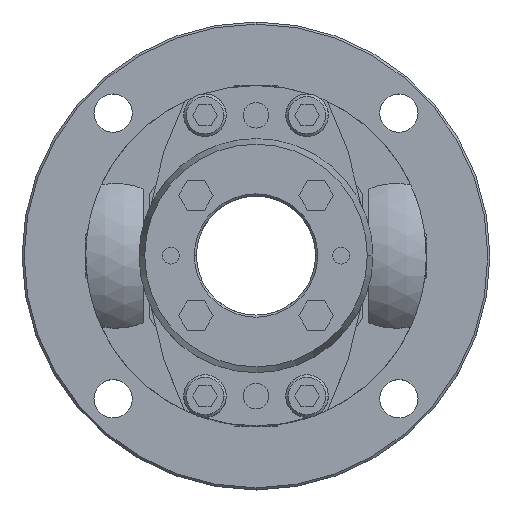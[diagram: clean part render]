
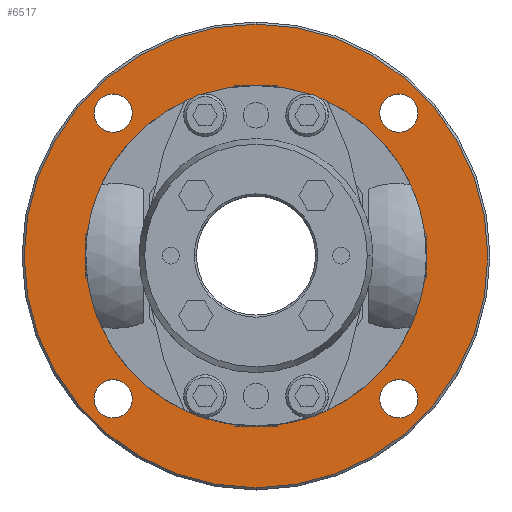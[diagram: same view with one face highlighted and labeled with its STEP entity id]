
A CAD part, top view. The second image highlights one B-rep face of the part: STEP entity #6517.
In plain terms, the highlighted planar face has unit normal (0, 0, 1).
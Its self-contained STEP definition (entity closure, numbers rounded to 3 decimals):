
#730=CARTESIAN_POINT('',(0.,-40.0,-16.0));
#731=VERTEX_POINT('',#730);
#847=CARTESIAN_POINT('',(0.,40.0,-16.0));
#848=VERTEX_POINT('',#847);
#855=CARTESIAN_POINT('',(0.0,0.0,-16.0));
#856=DIRECTION('',(0.0,0.0,-1.0));
#857=DIRECTION('',(0.0,1.0,0.0));
#858=AXIS2_PLACEMENT_3D('',#855,#856,#857);
#859=CIRCLE('',#858,40.0);
#860=EDGE_CURVE('',#731,#848,#859,.T.);
#1357=CARTESIAN_POINT('',(-33.588,38.088,-16.0));
#1358=VERTEX_POINT('',#1357);
#1367=CARTESIAN_POINT('',(-33.588,29.088,-16.0));
#1368=VERTEX_POINT('',#1367);
#1369=CARTESIAN_POINT('',(-33.588,33.588,-16.0));
#1370=DIRECTION('',(0.0,0.0,-1.0));
#1371=DIRECTION('',(0.0,1.0,0.0));
#1372=AXIS2_PLACEMENT_3D('',#1369,#1370,#1371);
#1373=CIRCLE('',#1372,4.5);
#1374=EDGE_CURVE('',#1368,#1358,#1373,.T.);
#1399=CARTESIAN_POINT('',(33.588,38.088,-16.0));
#1400=VERTEX_POINT('',#1399);
#1409=CARTESIAN_POINT('',(33.588,29.088,-16.0));
#1410=VERTEX_POINT('',#1409);
#1411=CARTESIAN_POINT('',(33.588,33.588,-16.0));
#1412=DIRECTION('',(0.0,0.0,-1.0));
#1413=DIRECTION('',(0.0,1.0,0.0));
#1414=AXIS2_PLACEMENT_3D('',#1411,#1412,#1413);
#1415=CIRCLE('',#1414,4.5);
#1416=EDGE_CURVE('',#1410,#1400,#1415,.T.);
#1441=CARTESIAN_POINT('',(33.588,-29.088,-16.0));
#1442=VERTEX_POINT('',#1441);
#1451=CARTESIAN_POINT('',(33.588,-38.088,-16.0));
#1452=VERTEX_POINT('',#1451);
#1453=CARTESIAN_POINT('',(33.588,-33.588,-16.0));
#1454=DIRECTION('',(0.0,0.0,-1.0));
#1455=DIRECTION('',(0.0,1.0,0.0));
#1456=AXIS2_PLACEMENT_3D('',#1453,#1454,#1455);
#1457=CIRCLE('',#1456,4.5);
#1458=EDGE_CURVE('',#1452,#1442,#1457,.T.);
#1483=CARTESIAN_POINT('',(-33.588,-29.088,-16.0));
#1484=VERTEX_POINT('',#1483);
#1493=CARTESIAN_POINT('',(-33.588,-38.088,-16.0));
#1494=VERTEX_POINT('',#1493);
#1495=CARTESIAN_POINT('',(-33.588,-33.588,-16.0));
#1496=DIRECTION('',(0.0,0.0,-1.0));
#1497=DIRECTION('',(0.0,1.0,0.0));
#1498=AXIS2_PLACEMENT_3D('',#1495,#1496,#1497);
#1499=CIRCLE('',#1498,4.5);
#1500=EDGE_CURVE('',#1494,#1484,#1499,.T.);
#2031=CARTESIAN_POINT('',(0.,-54.5,-16.0));
#2032=VERTEX_POINT('',#2031);
#2041=CARTESIAN_POINT('',(0.,54.5,-16.0));
#2042=VERTEX_POINT('',#2041);
#2043=CARTESIAN_POINT('',(0.0,0.0,-16.0));
#2044=DIRECTION('',(0.0,0.0,-1.0));
#2045=DIRECTION('',(0.0,-1.0,0.0));
#2046=AXIS2_PLACEMENT_3D('',#2043,#2044,#2045);
#2047=CIRCLE('',#2046,54.5);
#2048=EDGE_CURVE('',#2032,#2042,#2047,.T.);
#6448=CARTESIAN_POINT('',(0.0,0.0,-16.0));
#6449=DIRECTION('',(0.0,0.0,-1.0));
#6450=DIRECTION('',(0.0,-1.0,0.0));
#6451=AXIS2_PLACEMENT_3D('',#6448,#6449,#6450);
#6452=CIRCLE('',#6451,54.5);
#6453=EDGE_CURVE('',#2042,#2032,#6452,.T.);
#6458=CARTESIAN_POINT('',(0.,5.,-16.0));
#6459=DIRECTION('',(0.0,0.0,1.0));
#6460=DIRECTION('',(0.0,1.0,0.0));
#6461=AXIS2_PLACEMENT_3D('',#6458,#6459,#6460);
#6462=PLANE('',#6461);
#6463=ORIENTED_EDGE('',*,*,#6453,.F.);
#6464=ORIENTED_EDGE('',*,*,#2048,.F.);
#6465=EDGE_LOOP('',(#6463,#6464));
#6466=FACE_OUTER_BOUND('',#6465,.T.);
#6467=ORIENTED_EDGE('',*,*,#860,.T.);
#6468=CARTESIAN_POINT('',(0.0,0.0,-16.0));
#6469=DIRECTION('',(0.0,0.0,-1.0));
#6470=DIRECTION('',(0.0,1.0,0.0));
#6471=AXIS2_PLACEMENT_3D('',#6468,#6469,#6470);
#6472=CIRCLE('',#6471,40.0);
#6473=EDGE_CURVE('',#848,#731,#6472,.T.);
#6474=ORIENTED_EDGE('',*,*,#6473,.T.);
#6475=EDGE_LOOP('',(#6467,#6474));
#6476=FACE_BOUND('',#6475,.T.);
#6477=ORIENTED_EDGE('',*,*,#1374,.T.);
#6478=CARTESIAN_POINT('',(-33.588,33.588,-16.0));
#6479=DIRECTION('',(0.0,0.0,-1.0));
#6480=DIRECTION('',(0.0,1.0,0.0));
#6481=AXIS2_PLACEMENT_3D('',#6478,#6479,#6480);
#6482=CIRCLE('',#6481,4.5);
#6483=EDGE_CURVE('',#1358,#1368,#6482,.T.);
#6484=ORIENTED_EDGE('',*,*,#6483,.T.);
#6485=EDGE_LOOP('',(#6477,#6484));
#6486=FACE_BOUND('',#6485,.T.);
#6487=ORIENTED_EDGE('',*,*,#1416,.T.);
#6488=CARTESIAN_POINT('',(33.588,33.588,-16.0));
#6489=DIRECTION('',(0.0,0.0,-1.0));
#6490=DIRECTION('',(0.0,1.0,0.0));
#6491=AXIS2_PLACEMENT_3D('',#6488,#6489,#6490);
#6492=CIRCLE('',#6491,4.5);
#6493=EDGE_CURVE('',#1400,#1410,#6492,.T.);
#6494=ORIENTED_EDGE('',*,*,#6493,.T.);
#6495=EDGE_LOOP('',(#6487,#6494));
#6496=FACE_BOUND('',#6495,.T.);
#6497=ORIENTED_EDGE('',*,*,#1458,.T.);
#6498=CARTESIAN_POINT('',(33.588,-33.588,-16.0));
#6499=DIRECTION('',(0.0,0.0,-1.0));
#6500=DIRECTION('',(0.0,1.0,0.0));
#6501=AXIS2_PLACEMENT_3D('',#6498,#6499,#6500);
#6502=CIRCLE('',#6501,4.5);
#6503=EDGE_CURVE('',#1442,#1452,#6502,.T.);
#6504=ORIENTED_EDGE('',*,*,#6503,.T.);
#6505=EDGE_LOOP('',(#6497,#6504));
#6506=FACE_BOUND('',#6505,.T.);
#6507=ORIENTED_EDGE('',*,*,#1500,.T.);
#6508=CARTESIAN_POINT('',(-33.588,-33.588,-16.0));
#6509=DIRECTION('',(0.0,0.0,-1.0));
#6510=DIRECTION('',(0.0,1.0,0.0));
#6511=AXIS2_PLACEMENT_3D('',#6508,#6509,#6510);
#6512=CIRCLE('',#6511,4.5);
#6513=EDGE_CURVE('',#1484,#1494,#6512,.T.);
#6514=ORIENTED_EDGE('',*,*,#6513,.T.);
#6515=EDGE_LOOP('',(#6507,#6514));
#6516=FACE_BOUND('',#6515,.T.);
#6517=ADVANCED_FACE('',(#6466,#6476,#6486,#6496,#6506,#6516),#6462,.T.);
